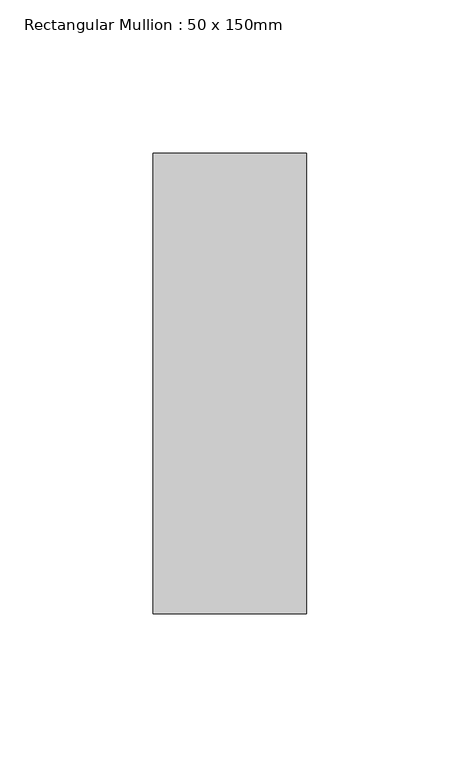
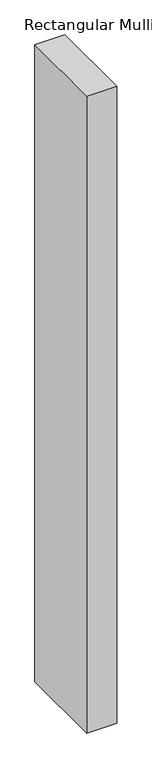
"""IFC4 building model written with IfcOpenShell, lengths in millimetres: member geometry, Rectangular Mullion : 50 x 150mm."""

import ifcopenshell
import ifcopenshell.guid

model = None  # the IFC model being written
_history = None  # IfcOwnerHistory: only IFC2X3 demands one
_inside = {}  # id of a spatial element -> (the spatial element, [elements in it])
_under = {}  # id of a project, library or spatial element -> (it, [spatial elements below it])
_declared = {}  # id of a project -> (the project, [libraries it declares])
_typed = {}  # id of a type object -> (the type object, [elements of that type])
_made_of = {}  # id of a material, layer set ... -> (it, [elements and type objects made of it])


def new_model(schema):
    """Start an empty IFC model of exactly this schema.

    Asked for "IFC4X3", IfcOpenShell would pick the latest addendum, in which some entities
    have other attributes; the version numbers below select the first issue.
    IFC2X3 requires an IfcOwnerHistory on every rooted entity: one is made here for all.
    """
    global model, _history
    if schema == "IFC4X3":
        model = ifcopenshell.file(schema_version=(4, 3, 0, 0))
    else:
        model = ifcopenshell.file(schema=schema)
    _inside.clear()
    _under.clear()
    _declared.clear()
    _typed.clear()
    _made_of.clear()
    _history = None
    if model.schema == "IFC2X3":
        org = make("IfcOrganization", Name="unknown")
        user = make(
            "IfcPersonAndOrganization",
            ThePerson=make("IfcPerson", FamilyName="unknown"),
            TheOrganization=org,
        )
        app = make(
            "IfcApplication",
            ApplicationDeveloper=org,
            Version="unknown",
            ApplicationFullName="unknown",
            ApplicationIdentifier="unknown",
        )
        _history = make(
            "IfcOwnerHistory",
            OwningUser=user,
            OwningApplication=app,
            ChangeAction="ADDED",
            CreationDate=0,
        )
    return model


def make(cls, **values):
    """One entity of the class cls with the attributes given. An attribute that is None is left unset."""
    return model.create_entity(
        cls, **{name: value for name, value in values.items() if value is not None}
    )


def rooted(cls, **values):
    """An entity with a GlobalId (a new one), such as an element, a storey or a relation."""
    return make(cls, GlobalId=ifcopenshell.guid.new(), OwnerHistory=_history, **values)


def si_unit(unit_type, name, prefix=None):
    """IfcSIUnit, for example si_unit("LENGTHUNIT", "METRE", prefix="MILLI")."""
    return make("IfcSIUnit", UnitType=unit_type, Prefix=prefix, Name=name)


def assignment(units):
    """IfcUnitAssignment: the units of a project."""
    return None if units is None else make("IfcUnitAssignment", Units=units)


def point(xyz):
    """IfcCartesianPoint."""
    return None if xyz is None else make("IfcCartesianPoint", Coordinates=xyz)


def direction(xyz):
    """IfcDirection."""
    return None if xyz is None else make("IfcDirection", DirectionRatios=xyz)


def frame(location, z_axis=None, x_axis=None):
    """IfcAxis2Placement3D, a coordinate frame: its origin and axes. An axis left out is left unset."""
    return make(
        "IfcAxis2Placement3D",
        Location=point(location),
        Axis=direction(z_axis),
        RefDirection=direction(x_axis),
    )


def origin():
    """The frame at (0, 0, 0) with its axes left unset."""
    return frame((0.0, 0.0, 0.0))


def place(relative_to, where):
    """IfcLocalPlacement: puts the frame where relative to a parent placement (None: the world)."""
    return make(
        "IfcLocalPlacement", PlacementRelTo=relative_to, RelativePlacement=where
    )


def context(
    kind, dimensions, precision=None, world=None, true_north=None, identifier=None
):
    """IfcGeometricRepresentationContext, for example the 3D "Model" context."""
    return make(
        "IfcGeometricRepresentationContext",
        ContextIdentifier=identifier,
        ContextType=kind,
        CoordinateSpaceDimension=dimensions,
        Precision=precision,
        WorldCoordinateSystem=world,
        TrueNorth=true_north,
    )


def project(units=None, contexts=None):
    """IfcProject with its units and contexts."""
    return rooted(
        "IfcProject",
        Name="project",
        RepresentationContexts=contexts,
        UnitsInContext=assignment(units),
    )


def spatial(cls, under=None, at=None, **own):
    """A site, building, storey or space (cls), placed at a placement, below another one or the project."""
    s = rooted(cls, ObjectPlacement=at, **own)
    if under is not None:
        _under.setdefault(under.id(), (under, []))[1].append(s)
    return s


def polyline(points):
    """IfcPolyline through the points."""
    return make("IfcPolyline", Points=[point(p) for p in points])


def outline(outer, holes=None, kind="AREA"):
    """IfcArbitraryClosedProfileDef: a profile drawn as a closed curve; with holes, ...WithVoids."""
    if holes is None:
        return make("IfcArbitraryClosedProfileDef", ProfileType=kind, OuterCurve=outer)
    return make(
        "IfcArbitraryProfileDefWithVoids",
        ProfileType=kind,
        OuterCurve=outer,
        InnerCurves=holes,
    )


def extrude(swept, where, along, depth):
    """IfcExtrudedAreaSolid: the profile swept, set in the frame where, extruded along a direction by depth."""
    return make(
        "IfcExtrudedAreaSolid",
        SweptArea=swept,
        Position=where,
        ExtrudedDirection=direction(along),
        Depth=depth,
    )


def shape(context_of_items, identifier, shape_type, items):
    """IfcShapeRepresentation: the items that make up one representation, for example the "Body"."""
    return make(
        "IfcShapeRepresentation",
        ContextOfItems=context_of_items,
        RepresentationIdentifier=identifier,
        RepresentationType=shape_type,
        Items=items,
    )


def source(mapping_origin, context_of_items, identifier, shape_type, items):
    """IfcRepresentationMap: a shape defined once, which mapped items show again and again."""
    return make(
        "IfcRepresentationMap",
        MappingOrigin=mapping_origin,
        MappedRepresentation=shape(context_of_items, identifier, shape_type, items),
    )


def transform(
    local_origin,
    x_axis=None,
    y_axis=None,
    z_axis=None,
    scale=None,
    scale2=None,
    scale3=None,
    uniform=True,
):
    """IfcCartesianTransformationOperator3D, or its non-uniform kind. x_axis, y_axis, z_axis: its Axis1, 2, 3."""
    if uniform:
        return make(
            "IfcCartesianTransformationOperator3D",
            Axis1=direction(x_axis),
            Axis2=direction(y_axis),
            LocalOrigin=point(local_origin),
            Scale=scale,
            Axis3=direction(z_axis),
        )
    return make(
        "IfcCartesianTransformationOperator3DnonUniform",
        Axis1=direction(x_axis),
        Axis2=direction(y_axis),
        LocalOrigin=point(local_origin),
        Scale=scale,
        Axis3=direction(z_axis),
        Scale2=scale2,
        Scale3=scale3,
    )


def mapped(mapping_source, mapping_target):
    """IfcMappedItem: shows the shape of a source again, moved by a transform."""
    return make(
        "IfcMappedItem", MappingSource=mapping_source, MappingTarget=mapping_target
    )


def made_of(thing, what):
    """Note that an element or type object is made of a material, layer set ...; save() writes the relation."""
    if what is not None:
        _made_of.setdefault(what.id(), (what, []))[1].append(thing)
    return thing


def element(
    cls,
    number,
    at=None,
    inside=None,
    cuts=None,
    type_object=None,
    material=None,
    context=None,
    identifier="Body",
    shape_type=None,
    held_by="IfcProductDefinitionShape",
    body=None,
    shapes=None,
    **own,
):
    """One element of the class cls, such as IfcWall. Its Tag is "e" and its number.

    at: its placement. inside: the storey or other place that contains it. cuts: it is an
    opening in that element (IfcRelVoidsElement). A single representation is given by context,
    identifier, shape_type and body (its items); several are given by shapes. held_by: the class
    of the entity that holds the representations. save() writes the other relations.
    """
    e = rooted(cls, Tag="e%d" % number, ObjectPlacement=at, **own)
    if body is not None:
        shapes = [shape(context, identifier, shape_type, body)]
    if shapes is not None:
        e.Representation = make(held_by, Representations=shapes)
    if inside is not None:
        _inside.setdefault(inside.id(), (inside, []))[1].append(e)
    if cuts is not None:
        rooted(
            "IfcRelVoidsElement", RelatingBuildingElement=cuts, RelatedOpeningElement=e
        )
    if type_object is not None:
        _typed.setdefault(type_object.id(), (type_object, []))[1].append(e)
    return made_of(e, material)


def aggregate(whole, parts):
    """IfcRelAggregates: a whole, such as a stair, and the parts it consists of."""
    return rooted("IfcRelAggregates", RelatingObject=whole, RelatedObjects=parts)


def save(model, path):
    """Write the relations noted so far, then the file.

    IfcRelAggregates (storeys below a building ...), IfcRelContainedInSpatialStructure (elements
    in a storey), IfcRelDefinesByType, IfcRelAssociatesMaterial and IfcRelDeclares: one each for
    every whole, place, type object, material and project.
    """
    for whole, parts in _under.values():
        aggregate(whole, parts)
    for where, things in _inside.values():
        rooted(
            "IfcRelContainedInSpatialStructure",
            RelatedElements=things,
            RelatingStructure=where,
        )
    for kind, things in _typed.values():
        rooted("IfcRelDefinesByType", RelatedObjects=things, RelatingType=kind)
    for what, things in _made_of.values():
        rooted("IfcRelAssociatesMaterial", RelatedObjects=things, RelatingMaterial=what)
    for by, libraries in _declared.values():
        rooted("IfcRelDeclares", RelatingContext=by, RelatedDefinitions=libraries)
    model.write(path)


def rectangular_mullion_50_x_150mm_8ab33052(model_context):
    return source(origin(), model_context, "Body", "SweptSolid", [
        extrude(outline(polyline([(0.0, 75.0), (0.0, -75.0), (-50.0, -75.0), (-50.0, 75.0), (0.0, 75.0)])), frame((0.0, 0.0, -1124.9999998), z_axis=(0.0, 0.0, 1.0), x_axis=(1.0, 0.0, 0.0)), (0.0, 0.0, 1.0), 1124.9999998),
    ])


if __name__ == "__main__":
    model = new_model("IFC4")
    model_context = context("Model", 3, world=origin())
    ifc_project = project(units=[si_unit("LENGTHUNIT", "METRE", prefix="MILLI")], contexts=[model_context])
    site = spatial("IfcSite", under=ifc_project)
    building = spatial("IfcBuilding", under=site)
    placement = place(None, origin())
    rectangular_mullion_50_x_150mm_shape = rectangular_mullion_50_x_150mm_8ab33052(model_context)
    element("IfcMember", 1, ObjectType="Rectangular Mullion : 50 x 150mm", at=placement, inside=building, context=model_context, shape_type="MappedRepresentation", body=[
        mapped(rectangular_mullion_50_x_150mm_shape, transform((0.0, 0.0, 0.0), x_axis=(1.0, 0.0, 0.0), y_axis=(0.0, 1.0, 0.0), z_axis=(0.0, 0.0, 1.0))),
    ])
    save(model, "model.ifc")
